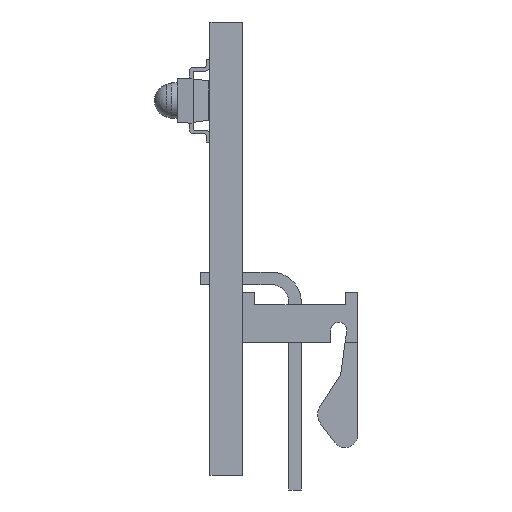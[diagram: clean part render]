
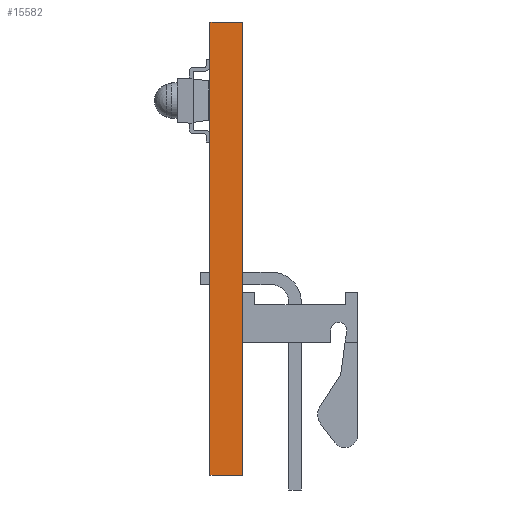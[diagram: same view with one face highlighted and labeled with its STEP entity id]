
A CAD part, left-side view. The second image highlights one B-rep face of the part: STEP entity #15582.
In plain terms, the highlighted planar face has unit normal (-1, 0, 0).
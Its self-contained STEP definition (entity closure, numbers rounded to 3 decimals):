
#1061=FACE_OUTER_BOUND('',#1953,.T.);
#1953=EDGE_LOOP('',(#13516,#13517,#13518,#13519));
#2481=LINE('',#21038,#4285);
#4046=LINE('',#24710,#5850);
#4049=LINE('',#24714,#5853);
#4050=LINE('',#24716,#5854);
#4285=VECTOR('',#17104,10.);
#5850=VECTOR('',#20487,10.);
#5853=VECTOR('',#20492,10.);
#5854=VECTOR('',#20495,10.);
#6040=VERTEX_POINT('',#21035);
#6041=VERTEX_POINT('',#21037);
#7238=VERTEX_POINT('',#24707);
#7239=VERTEX_POINT('',#24709);
#7515=EDGE_CURVE('',#6040,#6041,#2481,.T.);
#9330=EDGE_CURVE('',#7238,#7239,#4046,.T.);
#9333=EDGE_CURVE('',#7238,#6041,#4049,.T.);
#9334=EDGE_CURVE('',#7239,#6040,#4050,.T.);
#13516=ORIENTED_EDGE('',*,*,#9333,.T.);
#13517=ORIENTED_EDGE('',*,*,#7515,.F.);
#13518=ORIENTED_EDGE('',*,*,#9334,.F.);
#13519=ORIENTED_EDGE('',*,*,#9330,.F.);
#14105=PLANE('',#16632);
#15582=ADVANCED_FACE('',(#1061),#14105,.T.);
#16632=AXIS2_PLACEMENT_3D('',#24715,#20493,#20494);
#17104=DIRECTION('',(0.,0.,1.));
#20487=DIRECTION('',(0.,0.,-1.));
#20492=DIRECTION('',(0.,1.,0.));
#20493=DIRECTION('center_axis',(-1.,0.,0.));
#20494=DIRECTION('ref_axis',(0.,0.,1.));
#20495=DIRECTION('',(0.,1.,0.));
#21035=CARTESIAN_POINT('',(0.,0.825,-22.987));
#21037=CARTESIAN_POINT('',(0.,0.825,0.));
#21038=CARTESIAN_POINT('',(0.,0.825,-22.987));
#24707=CARTESIAN_POINT('',(0.,-0.825,0.));
#24709=CARTESIAN_POINT('',(0.,-0.825,-22.987));
#24710=CARTESIAN_POINT('',(0.,-0.825,-22.987));
#24714=CARTESIAN_POINT('',(0.,0.,0.));
#24715=CARTESIAN_POINT('Origin',(0.,0.,-22.987));
#24716=CARTESIAN_POINT('',(0.,0.,-22.987));
